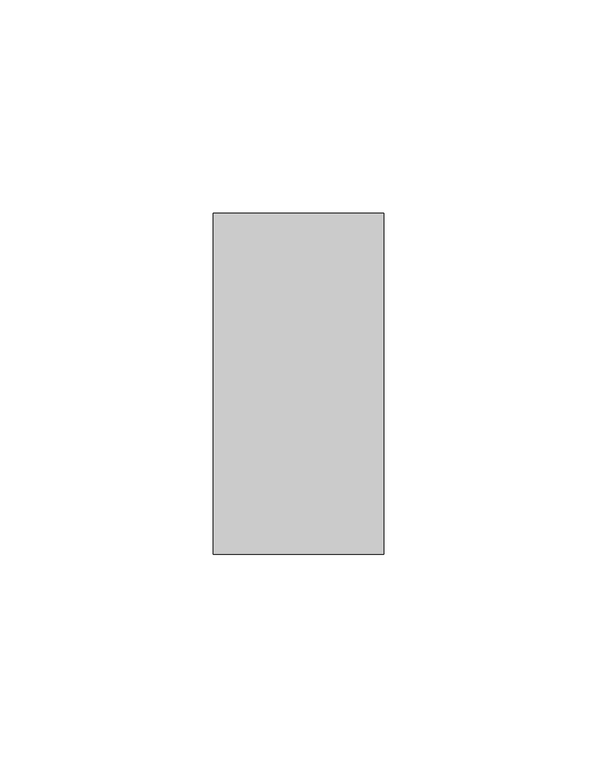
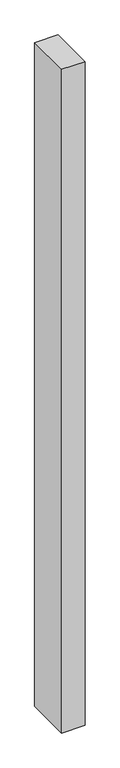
"""IFC4 building model written with IfcOpenShell, lengths in millimetres: member geometry, Obdélníková příčel : VERTI PANORAMA - vertikální."""

import ifcopenshell
import ifcopenshell.guid

model = None  # the IFC model being written
_history = None  # IfcOwnerHistory: only IFC2X3 demands one
_inside = {}  # id of a spatial element -> (the spatial element, [elements in it])
_under = {}  # id of a project, library or spatial element -> (it, [spatial elements below it])
_declared = {}  # id of a project -> (the project, [libraries it declares])
_typed = {}  # id of a type object -> (the type object, [elements of that type])
_made_of = {}  # id of a material, layer set ... -> (it, [elements and type objects made of it])


def new_model(schema):
    """Start an empty IFC model of exactly this schema.

    Asked for "IFC4X3", IfcOpenShell would pick the latest addendum, in which some entities
    have other attributes; the version numbers below select the first issue.
    IFC2X3 requires an IfcOwnerHistory on every rooted entity: one is made here for all.
    """
    global model, _history
    if schema == "IFC4X3":
        model = ifcopenshell.file(schema_version=(4, 3, 0, 0))
    else:
        model = ifcopenshell.file(schema=schema)
    _inside.clear()
    _under.clear()
    _declared.clear()
    _typed.clear()
    _made_of.clear()
    _history = None
    if model.schema == "IFC2X3":
        org = make("IfcOrganization", Name="unknown")
        user = make(
            "IfcPersonAndOrganization",
            ThePerson=make("IfcPerson", FamilyName="unknown"),
            TheOrganization=org,
        )
        app = make(
            "IfcApplication",
            ApplicationDeveloper=org,
            Version="unknown",
            ApplicationFullName="unknown",
            ApplicationIdentifier="unknown",
        )
        _history = make(
            "IfcOwnerHistory",
            OwningUser=user,
            OwningApplication=app,
            ChangeAction="ADDED",
            CreationDate=0,
        )
    return model


def make(cls, **values):
    """One entity of the class cls with the attributes given. An attribute that is None is left unset."""
    return model.create_entity(
        cls, **{name: value for name, value in values.items() if value is not None}
    )


def rooted(cls, **values):
    """An entity with a GlobalId (a new one), such as an element, a storey or a relation."""
    return make(cls, GlobalId=ifcopenshell.guid.new(), OwnerHistory=_history, **values)


def si_unit(unit_type, name, prefix=None):
    """IfcSIUnit, for example si_unit("LENGTHUNIT", "METRE", prefix="MILLI")."""
    return make("IfcSIUnit", UnitType=unit_type, Prefix=prefix, Name=name)


def assignment(units):
    """IfcUnitAssignment: the units of a project."""
    return None if units is None else make("IfcUnitAssignment", Units=units)


def point(xyz):
    """IfcCartesianPoint."""
    return None if xyz is None else make("IfcCartesianPoint", Coordinates=xyz)


def direction(xyz):
    """IfcDirection."""
    return None if xyz is None else make("IfcDirection", DirectionRatios=xyz)


def frame(location, z_axis=None, x_axis=None):
    """IfcAxis2Placement3D, a coordinate frame: its origin and axes. An axis left out is left unset."""
    return make(
        "IfcAxis2Placement3D",
        Location=point(location),
        Axis=direction(z_axis),
        RefDirection=direction(x_axis),
    )


def origin():
    """The frame at (0, 0, 0) with its axes left unset."""
    return frame((0.0, 0.0, 0.0))


def place(relative_to, where):
    """IfcLocalPlacement: puts the frame where relative to a parent placement (None: the world)."""
    return make(
        "IfcLocalPlacement", PlacementRelTo=relative_to, RelativePlacement=where
    )


def context(
    kind, dimensions, precision=None, world=None, true_north=None, identifier=None
):
    """IfcGeometricRepresentationContext, for example the 3D "Model" context."""
    return make(
        "IfcGeometricRepresentationContext",
        ContextIdentifier=identifier,
        ContextType=kind,
        CoordinateSpaceDimension=dimensions,
        Precision=precision,
        WorldCoordinateSystem=world,
        TrueNorth=true_north,
    )


def project(units=None, contexts=None):
    """IfcProject with its units and contexts."""
    return rooted(
        "IfcProject",
        Name="project",
        RepresentationContexts=contexts,
        UnitsInContext=assignment(units),
    )


def spatial(cls, under=None, at=None, **own):
    """A site, building, storey or space (cls), placed at a placement, below another one or the project."""
    s = rooted(cls, ObjectPlacement=at, **own)
    if under is not None:
        _under.setdefault(under.id(), (under, []))[1].append(s)
    return s


def polyline(points):
    """IfcPolyline through the points."""
    return make("IfcPolyline", Points=[point(p) for p in points])


def outline(outer, holes=None, kind="AREA"):
    """IfcArbitraryClosedProfileDef: a profile drawn as a closed curve; with holes, ...WithVoids."""
    if holes is None:
        return make("IfcArbitraryClosedProfileDef", ProfileType=kind, OuterCurve=outer)
    return make(
        "IfcArbitraryProfileDefWithVoids",
        ProfileType=kind,
        OuterCurve=outer,
        InnerCurves=holes,
    )


def extrude(swept, where, along, depth):
    """IfcExtrudedAreaSolid: the profile swept, set in the frame where, extruded along a direction by depth."""
    return make(
        "IfcExtrudedAreaSolid",
        SweptArea=swept,
        Position=where,
        ExtrudedDirection=direction(along),
        Depth=depth,
    )


def shape(context_of_items, identifier, shape_type, items):
    """IfcShapeRepresentation: the items that make up one representation, for example the "Body"."""
    return make(
        "IfcShapeRepresentation",
        ContextOfItems=context_of_items,
        RepresentationIdentifier=identifier,
        RepresentationType=shape_type,
        Items=items,
    )


def source(mapping_origin, context_of_items, identifier, shape_type, items):
    """IfcRepresentationMap: a shape defined once, which mapped items show again and again."""
    return make(
        "IfcRepresentationMap",
        MappingOrigin=mapping_origin,
        MappedRepresentation=shape(context_of_items, identifier, shape_type, items),
    )


def transform(
    local_origin,
    x_axis=None,
    y_axis=None,
    z_axis=None,
    scale=None,
    scale2=None,
    scale3=None,
    uniform=True,
):
    """IfcCartesianTransformationOperator3D, or its non-uniform kind. x_axis, y_axis, z_axis: its Axis1, 2, 3."""
    if uniform:
        return make(
            "IfcCartesianTransformationOperator3D",
            Axis1=direction(x_axis),
            Axis2=direction(y_axis),
            LocalOrigin=point(local_origin),
            Scale=scale,
            Axis3=direction(z_axis),
        )
    return make(
        "IfcCartesianTransformationOperator3DnonUniform",
        Axis1=direction(x_axis),
        Axis2=direction(y_axis),
        LocalOrigin=point(local_origin),
        Scale=scale,
        Axis3=direction(z_axis),
        Scale2=scale2,
        Scale3=scale3,
    )


def mapped(mapping_source, mapping_target):
    """IfcMappedItem: shows the shape of a source again, moved by a transform."""
    return make(
        "IfcMappedItem", MappingSource=mapping_source, MappingTarget=mapping_target
    )


def made_of(thing, what):
    """Note that an element or type object is made of a material, layer set ...; save() writes the relation."""
    if what is not None:
        _made_of.setdefault(what.id(), (what, []))[1].append(thing)
    return thing


def element(
    cls,
    number,
    at=None,
    inside=None,
    cuts=None,
    type_object=None,
    material=None,
    context=None,
    identifier="Body",
    shape_type=None,
    held_by="IfcProductDefinitionShape",
    body=None,
    shapes=None,
    **own,
):
    """One element of the class cls, such as IfcWall. Its Tag is "e" and its number.

    at: its placement. inside: the storey or other place that contains it. cuts: it is an
    opening in that element (IfcRelVoidsElement). A single representation is given by context,
    identifier, shape_type and body (its items); several are given by shapes. held_by: the class
    of the entity that holds the representations. save() writes the other relations.
    """
    e = rooted(cls, Tag="e%d" % number, ObjectPlacement=at, **own)
    if body is not None:
        shapes = [shape(context, identifier, shape_type, body)]
    if shapes is not None:
        e.Representation = make(held_by, Representations=shapes)
    if inside is not None:
        _inside.setdefault(inside.id(), (inside, []))[1].append(e)
    if cuts is not None:
        rooted(
            "IfcRelVoidsElement", RelatingBuildingElement=cuts, RelatedOpeningElement=e
        )
    if type_object is not None:
        _typed.setdefault(type_object.id(), (type_object, []))[1].append(e)
    return made_of(e, material)


def aggregate(whole, parts):
    """IfcRelAggregates: a whole, such as a stair, and the parts it consists of."""
    return rooted("IfcRelAggregates", RelatingObject=whole, RelatedObjects=parts)


def save(model, path):
    """Write the relations noted so far, then the file.

    IfcRelAggregates (storeys below a building ...), IfcRelContainedInSpatialStructure (elements
    in a storey), IfcRelDefinesByType, IfcRelAssociatesMaterial and IfcRelDeclares: one each for
    every whole, place, type object, material and project.
    """
    for whole, parts in _under.values():
        aggregate(whole, parts)
    for where, things in _inside.values():
        rooted(
            "IfcRelContainedInSpatialStructure",
            RelatedElements=things,
            RelatingStructure=where,
        )
    for kind, things in _typed.values():
        rooted("IfcRelDefinesByType", RelatedObjects=things, RelatingType=kind)
    for what, things in _made_of.values():
        rooted("IfcRelAssociatesMaterial", RelatedObjects=things, RelatingMaterial=what)
    for by, libraries in _declared.values():
        rooted("IfcRelDeclares", RelatingContext=by, RelatedDefinitions=libraries)
    model.write(path)


def member_73dc555b(model_context):
    return source(origin(), model_context, "Body", "SweptSolid", [
        extrude(outline(polyline([(-40.0, 40.0), (0.0, 40.0), (0.0, -40.0), (-40.0, -40.0), (-40.0, 40.0)])), frame((0.0, 0.0, -1200.0), z_axis=(0.0, 0.0, 1.0), x_axis=(1.0, 0.0, 0.0)), (0.0, 0.0, 1.0), 1200.0),
    ])


if __name__ == "__main__":
    model = new_model("IFC4")
    model_context = context("Model", 3, world=origin())
    ifc_project = project(units=[si_unit("LENGTHUNIT", "METRE", prefix="MILLI")], contexts=[model_context])
    site = spatial("IfcSite", under=ifc_project)
    building = spatial("IfcBuilding", under=site)
    placement = place(None, origin())
    member_shape = member_73dc555b(model_context)
    element("IfcMember", 1, ObjectType="Obdélníková příčel : VERTI PANORAMA - vertikální", at=placement, inside=building, context=model_context, shape_type="MappedRepresentation", body=[
        mapped(member_shape, transform((0.0, 0.0, 0.0), x_axis=(1.0, 0.0, 0.0), y_axis=(0.0, 1.0, 0.0), z_axis=(0.0, 0.0, 1.0))),
    ])
    save(model, "model.ifc")
